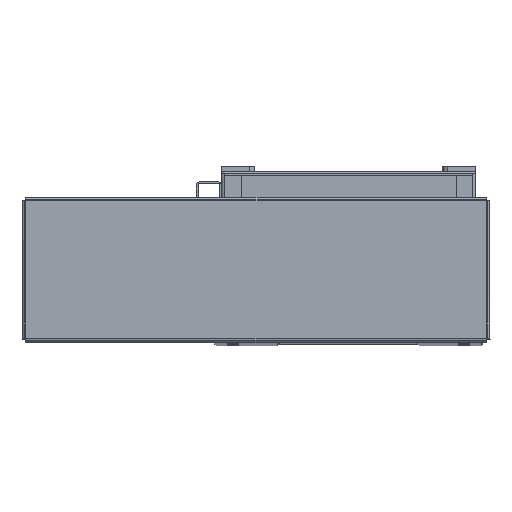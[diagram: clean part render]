
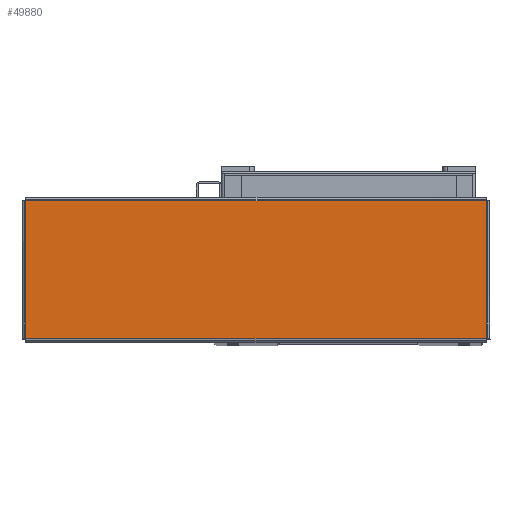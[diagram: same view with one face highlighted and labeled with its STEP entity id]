
A CAD part, top view. The second image highlights one B-rep face of the part: STEP entity #49880.
In plain terms, the highlighted planar face has unit normal (0, 0, 1) as drawn and (0, -1, 0) by its records, which use the part's own axes.
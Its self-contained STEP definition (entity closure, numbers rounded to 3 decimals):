
#1017 = LINE ( 'NONE', #13334, #1036 ) ;
#1031 = VECTOR ( 'NONE', #13149, 1000. ) ;
#1036 = VECTOR ( 'NONE', #13329, 1000. ) ;
#1043 = LINE ( 'NONE', #13103, #1031 ) ;
#2152 = VECTOR ( 'NONE', #13050, 1000. ) ;
#2173 = LINE ( 'NONE', #13034, #2152 ) ;
#2174 = LINE ( 'NONE', #13056, #2184 ) ;
#2184 = VECTOR ( 'NONE', #13068, 1000. ) ;
#9602 = CARTESIAN_POINT ( 'NONE',  ( 0., -1.5, 0. ) ) ;
#9604 = DIRECTION ( 'NONE',  ( 0., 0., 1. ) ) ;
#9632 = DIRECTION ( 'NONE',  ( 0., 1., 0. ) ) ;
#9650 = PLANE ( 'NONE',  #18545 ) ;
#13034 = CARTESIAN_POINT ( 'NONE',  ( 139.263, -1.5, -41.793 ) ) ;
#13050 = DIRECTION ( 'NONE',  ( 0., 0., 1. ) ) ;
#13056 = CARTESIAN_POINT ( 'NONE',  ( 139.293, -1.5, 41.763 ) ) ;
#13068 = DIRECTION ( 'NONE',  ( -1., 0., 0. ) ) ;
#13103 = CARTESIAN_POINT ( 'NONE',  ( -139.293, -1.5, -41.763 ) ) ;
#13149 = DIRECTION ( 'NONE',  ( 1., 0., 0. ) ) ;
#13329 = DIRECTION ( 'NONE',  ( 0., 0., -1. ) ) ;
#13334 = CARTESIAN_POINT ( 'NONE',  ( -139.263, -1.5, 41.793 ) ) ;
#18545 = AXIS2_PLACEMENT_3D ( 'NONE', #9602, #9632, #9604 ) ;
#19541 = CARTESIAN_POINT ( 'NONE',  ( 139.263, -1.5, -41.763 ) ) ;
#19555 = CARTESIAN_POINT ( 'NONE',  ( -139.263, -1.5, 41.763 ) ) ;
#19597 = CARTESIAN_POINT ( 'NONE',  ( 139.263, -1.5, 41.763 ) ) ;
#20270 = CARTESIAN_POINT ( 'NONE',  ( -139.263, -1.5, -41.763 ) ) ;
#21143 = VERTEX_POINT ( 'NONE', #20270 ) ;
#21597 = VERTEX_POINT ( 'NONE', #19541 ) ;
#21598 = VERTEX_POINT ( 'NONE', #19597 ) ;
#21601 = VERTEX_POINT ( 'NONE', #19555 ) ;
#33401 = EDGE_CURVE ( 'NONE', #21597, #21598, #2173, .T. ) ;
#33407 = EDGE_CURVE ( 'NONE', #21598, #21601, #2174, .T. ) ;
#33421 = EDGE_CURVE ( 'NONE', #21143, #21597, #1043, .T. ) ;
#33446 = EDGE_CURVE ( 'NONE', #21601, #21143, #1017, .T. ) ;
#39111 = FACE_OUTER_BOUND ( 'NONE', #42462, .T. ) ;
#41971 = ORIENTED_EDGE ( 'NONE', *, *, #33401, .T. ) ;
#41979 = ORIENTED_EDGE ( 'NONE', *, *, #33446, .T. ) ;
#42031 = ORIENTED_EDGE ( 'NONE', *, *, #33421, .T. ) ;
#42064 = ORIENTED_EDGE ( 'NONE', *, *, #33407, .T. ) ;
#42462 = EDGE_LOOP ( 'NONE', ( #41971, #42064, #41979, #42031 ) ) ;
#49880 = ADVANCED_FACE ( 'NONE', ( #39111 ), #9650, .F. ) ;
